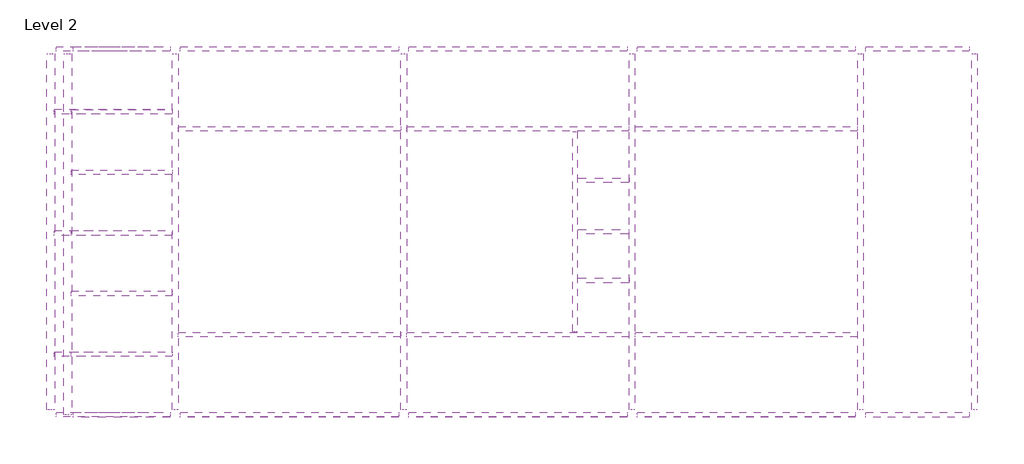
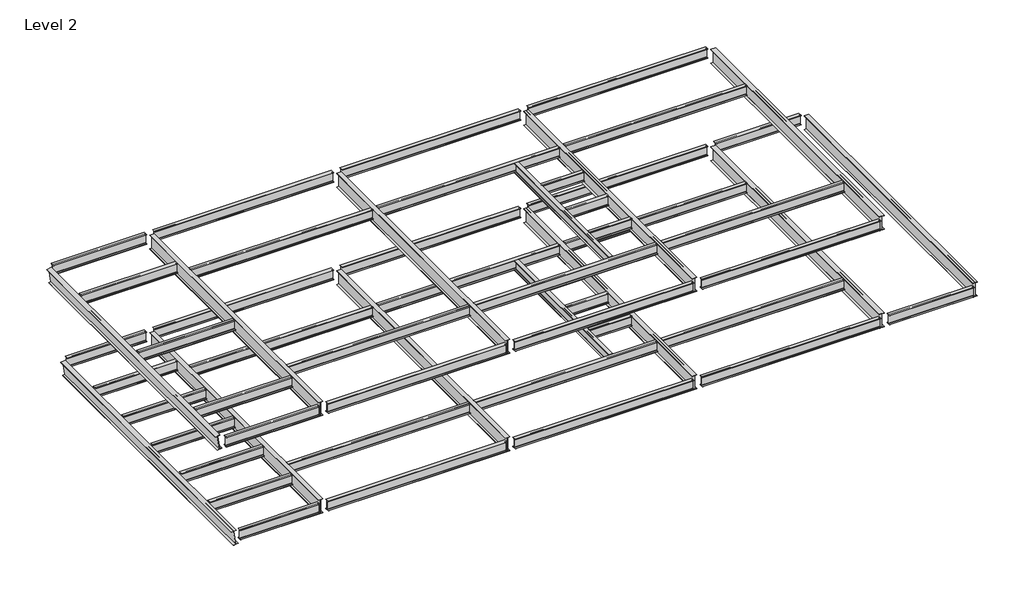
# One storey: 57 beams.
"""IFC4 building model written with IfcOpenShell, lengths in millimetres."""

import ifcopenshell
import ifcopenshell.guid

model = None  # the IFC model being written
_history = None  # IfcOwnerHistory: only IFC2X3 demands one
_inside = {}  # id of a spatial element -> (the spatial element, [elements in it])
_under = {}  # id of a project, library or spatial element -> (it, [spatial elements below it])
_declared = {}  # id of a project -> (the project, [libraries it declares])
_typed = {}  # id of a type object -> (the type object, [elements of that type])
_made_of = {}  # id of a material, layer set ... -> (it, [elements and type objects made of it])


def new_model(schema):
    """Start an empty IFC model of exactly this schema.

    Asked for "IFC4X3", IfcOpenShell would pick the latest addendum, in which some entities
    have other attributes; the version numbers below select the first issue.
    IFC2X3 requires an IfcOwnerHistory on every rooted entity: one is made here for all.
    """
    global model, _history
    if schema == "IFC4X3":
        model = ifcopenshell.file(schema_version=(4, 3, 0, 0))
    else:
        model = ifcopenshell.file(schema=schema)
    _inside.clear()
    _under.clear()
    _declared.clear()
    _typed.clear()
    _made_of.clear()
    _history = None
    if model.schema == "IFC2X3":
        org = make("IfcOrganization", Name="unknown")
        user = make(
            "IfcPersonAndOrganization",
            ThePerson=make("IfcPerson", FamilyName="unknown"),
            TheOrganization=org,
        )
        app = make(
            "IfcApplication",
            ApplicationDeveloper=org,
            Version="unknown",
            ApplicationFullName="unknown",
            ApplicationIdentifier="unknown",
        )
        _history = make(
            "IfcOwnerHistory",
            OwningUser=user,
            OwningApplication=app,
            ChangeAction="ADDED",
            CreationDate=0,
        )
    return model


def make(cls, **values):
    """One entity of the class cls with the attributes given. An attribute that is None is left unset."""
    return model.create_entity(
        cls, **{name: value for name, value in values.items() if value is not None}
    )


def rooted(cls, **values):
    """An entity with a GlobalId (a new one), such as an element, a storey or a relation."""
    return make(cls, GlobalId=ifcopenshell.guid.new(), OwnerHistory=_history, **values)


def si_unit(unit_type, name, prefix=None):
    """IfcSIUnit, for example si_unit("LENGTHUNIT", "METRE", prefix="MILLI")."""
    return make("IfcSIUnit", UnitType=unit_type, Prefix=prefix, Name=name)


def assignment(units):
    """IfcUnitAssignment: the units of a project."""
    return None if units is None else make("IfcUnitAssignment", Units=units)


def point(xyz):
    """IfcCartesianPoint."""
    return None if xyz is None else make("IfcCartesianPoint", Coordinates=xyz)


def direction(xyz):
    """IfcDirection."""
    return None if xyz is None else make("IfcDirection", DirectionRatios=xyz)


def frame(location, z_axis=None, x_axis=None):
    """IfcAxis2Placement3D, a coordinate frame: its origin and axes. An axis left out is left unset."""
    return make(
        "IfcAxis2Placement3D",
        Location=point(location),
        Axis=direction(z_axis),
        RefDirection=direction(x_axis),
    )


def frame_2d(location, x_axis=None):
    """IfcAxis2Placement2D, a coordinate frame in the plane: its origin and x axis."""
    return make(
        "IfcAxis2Placement2D", Location=point(location), RefDirection=direction(x_axis)
    )


def origin():
    """The frame at (0, 0, 0) with its axes left unset."""
    return frame((0.0, 0.0, 0.0))


def place(relative_to, where):
    """IfcLocalPlacement: puts the frame where relative to a parent placement (None: the world)."""
    return make(
        "IfcLocalPlacement", PlacementRelTo=relative_to, RelativePlacement=where
    )


def context(
    kind, dimensions, precision=None, world=None, true_north=None, identifier=None
):
    """IfcGeometricRepresentationContext, for example the 3D "Model" context."""
    return make(
        "IfcGeometricRepresentationContext",
        ContextIdentifier=identifier,
        ContextType=kind,
        CoordinateSpaceDimension=dimensions,
        Precision=precision,
        WorldCoordinateSystem=world,
        TrueNorth=true_north,
    )


def project(units=None, contexts=None):
    """IfcProject with its units and contexts."""
    return rooted(
        "IfcProject",
        Name="project",
        RepresentationContexts=contexts,
        UnitsInContext=assignment(units),
    )


def spatial(cls, under=None, at=None, **own):
    """A site, building, storey or space (cls), placed at a placement, below another one or the project."""
    s = rooted(cls, ObjectPlacement=at, **own)
    if under is not None:
        _under.setdefault(under.id(), (under, []))[1].append(s)
    return s


def polyline(points):
    """IfcPolyline through the points."""
    return make("IfcPolyline", Points=[point(p) for p in points])


def circle_curve(where, radius):
    """IfcCircle in the frame where."""
    return make("IfcCircle", Position=where, Radius=radius)


def trimmed(basis, trim1, trim2, sense, master):
    """IfcTrimmedCurve: the piece of a basis curve between two trims."""
    return make(
        "IfcTrimmedCurve",
        BasisCurve=basis,
        Trim1=trim1,
        Trim2=trim2,
        SenseAgreement=sense,
        MasterRepresentation=master,
    )


def segment(curve, same_sense, transition):
    """IfcCompositeCurveSegment."""
    return make(
        "IfcCompositeCurveSegment",
        Transition=transition,
        SameSense=same_sense,
        ParentCurve=curve,
    )


def composite_curve(segments, self_intersect=None):
    """IfcCompositeCurve: segments joined end to end."""
    return make("IfcCompositeCurve", Segments=segments, SelfIntersect=self_intersect)


def outline(outer, holes=None, kind="AREA"):
    """IfcArbitraryClosedProfileDef: a profile drawn as a closed curve; with holes, ...WithVoids."""
    if holes is None:
        return make("IfcArbitraryClosedProfileDef", ProfileType=kind, OuterCurve=outer)
    return make(
        "IfcArbitraryProfileDefWithVoids",
        ProfileType=kind,
        OuterCurve=outer,
        InnerCurves=holes,
    )


def extrude(swept, where, along, depth):
    """IfcExtrudedAreaSolid: the profile swept, set in the frame where, extruded along a direction by depth."""
    return make(
        "IfcExtrudedAreaSolid",
        SweptArea=swept,
        Position=where,
        ExtrudedDirection=direction(along),
        Depth=depth,
    )


def shape(context_of_items, identifier, shape_type, items):
    """IfcShapeRepresentation: the items that make up one representation, for example the "Body"."""
    return make(
        "IfcShapeRepresentation",
        ContextOfItems=context_of_items,
        RepresentationIdentifier=identifier,
        RepresentationType=shape_type,
        Items=items,
    )


def source(mapping_origin, context_of_items, identifier, shape_type, items):
    """IfcRepresentationMap: a shape defined once, which mapped items show again and again."""
    return make(
        "IfcRepresentationMap",
        MappingOrigin=mapping_origin,
        MappedRepresentation=shape(context_of_items, identifier, shape_type, items),
    )


def transform(
    local_origin,
    x_axis=None,
    y_axis=None,
    z_axis=None,
    scale=None,
    scale2=None,
    scale3=None,
    uniform=True,
):
    """IfcCartesianTransformationOperator3D, or its non-uniform kind. x_axis, y_axis, z_axis: its Axis1, 2, 3."""
    if uniform:
        return make(
            "IfcCartesianTransformationOperator3D",
            Axis1=direction(x_axis),
            Axis2=direction(y_axis),
            LocalOrigin=point(local_origin),
            Scale=scale,
            Axis3=direction(z_axis),
        )
    return make(
        "IfcCartesianTransformationOperator3DnonUniform",
        Axis1=direction(x_axis),
        Axis2=direction(y_axis),
        LocalOrigin=point(local_origin),
        Scale=scale,
        Axis3=direction(z_axis),
        Scale2=scale2,
        Scale3=scale3,
    )


def mapped(mapping_source, mapping_target):
    """IfcMappedItem: shows the shape of a source again, moved by a transform."""
    return make(
        "IfcMappedItem", MappingSource=mapping_source, MappingTarget=mapping_target
    )


def made_of(thing, what):
    """Note that an element or type object is made of a material, layer set ...; save() writes the relation."""
    if what is not None:
        _made_of.setdefault(what.id(), (what, []))[1].append(thing)
    return thing


def element(
    cls,
    number,
    at=None,
    inside=None,
    cuts=None,
    type_object=None,
    material=None,
    context=None,
    identifier="Body",
    shape_type=None,
    held_by="IfcProductDefinitionShape",
    body=None,
    shapes=None,
    **own,
):
    """One element of the class cls, such as IfcWall. Its Tag is "e" and its number.

    at: its placement. inside: the storey or other place that contains it. cuts: it is an
    opening in that element (IfcRelVoidsElement). A single representation is given by context,
    identifier, shape_type and body (its items); several are given by shapes. held_by: the class
    of the entity that holds the representations. save() writes the other relations.
    """
    e = rooted(cls, Tag="e%d" % number, ObjectPlacement=at, **own)
    if body is not None:
        shapes = [shape(context, identifier, shape_type, body)]
    if shapes is not None:
        e.Representation = make(held_by, Representations=shapes)
    if inside is not None:
        _inside.setdefault(inside.id(), (inside, []))[1].append(e)
    if cuts is not None:
        rooted(
            "IfcRelVoidsElement", RelatingBuildingElement=cuts, RelatedOpeningElement=e
        )
    if type_object is not None:
        _typed.setdefault(type_object.id(), (type_object, []))[1].append(e)
    return made_of(e, material)


def aggregate(whole, parts):
    """IfcRelAggregates: a whole, such as a stair, and the parts it consists of."""
    return rooted("IfcRelAggregates", RelatingObject=whole, RelatedObjects=parts)


def save(model, path):
    """Write the relations noted so far, then the file.

    IfcRelAggregates (storeys below a building ...), IfcRelContainedInSpatialStructure (elements
    in a storey), IfcRelDefinesByType, IfcRelAssociatesMaterial and IfcRelDeclares: one each for
    every whole, place, type object, material and project.
    """
    for whole, parts in _under.values():
        aggregate(whole, parts)
    for where, things in _inside.values():
        rooted(
            "IfcRelContainedInSpatialStructure",
            RelatedElements=things,
            RelatingStructure=where,
        )
    for kind, things in _typed.values():
        rooted("IfcRelDefinesByType", RelatedObjects=things, RelatingType=kind)
    for what, things in _made_of.values():
        rooted("IfcRelAssociatesMaterial", RelatedObjects=things, RelatingMaterial=what)
    for by, libraries in _declared.values():
        rooted("IfcRelDeclares", RelatingContext=by, RelatedDefinitions=libraries)
    model.write(path)


def ub_universal_beams_as_3679_1_530ub92_4_72efcd79(model_context):
    return source(origin(), model_context, "Body", "SweptSolid", [
        extrude(outline(composite_curve([segment(polyline([(104.5, -250.9), (104.5, -266.5), (-104.5, -266.5), (-104.5, -250.9), (-19.1, -250.9)]), True, "CONTINUOUS"), segment(trimmed(circle_curve(frame_2d((-19.1, -236.9)), 14.0), [point((-19.1, -250.9))], [point((-5.1, -236.9))], True, "CARTESIAN"), True, "CONTINUOUS"), segment(polyline([(-5.1, -236.9), (-5.1, 236.9)]), True, "CONTINUOUS"), segment(trimmed(circle_curve(frame_2d((-19.1, 236.9)), 14.0), [point((-5.1, 236.9))], [point((-19.1, 250.9))], True, "CARTESIAN"), True, "CONTINUOUS"), segment(polyline([(-19.1, 250.9), (-104.5, 250.9), (-104.5, 266.5), (104.5, 266.5), (104.5, 250.9), (19.1, 250.9)]), True, "CONTINUOUS"), segment(trimmed(circle_curve(frame_2d((19.1, 236.9)), 14.0), [point((19.1, 250.9))], [point((5.1, 236.9))], True, "CARTESIAN"), True, "CONTINUOUS"), segment(polyline([(5.1, 236.9), (5.1, -236.9)]), True, "CONTINUOUS"), segment(trimmed(circle_curve(frame_2d((19.1, -236.9)), 14.0), [point((5.1, -236.9))], [point((19.1, -250.9))], True, "CARTESIAN"), True, "CONTINUOUS"), segment(polyline([(19.1, -250.9), (104.5, -250.9)]), True, "CONTINUOUS")], self_intersect=False)), frame((-2098.6, 0.0, 0.0), z_axis=(1.0, 0.0, 0.0), x_axis=(0.0, 1.0, 0.0)), (0.0, 0.0, 1.0), 4411.1),
    ])


def ub_universal_beams_as_3679_1_530ub92_4_55a1222a(model_context):
    return source(origin(), model_context, "Body", "SweptSolid", [
        extrude(outline(composite_curve([segment(polyline([(104.5, -250.9), (104.5, -266.5), (-104.5, -266.5), (-104.5, -250.9), (-19.1, -250.9)]), True, "CONTINUOUS"), segment(trimmed(circle_curve(frame_2d((-19.1, -236.9)), 14.0), [point((-19.1, -250.9))], [point((-5.1, -236.9))], True, "CARTESIAN"), True, "CONTINUOUS"), segment(polyline([(-5.1, -236.9), (-5.1, 236.9)]), True, "CONTINUOUS"), segment(trimmed(circle_curve(frame_2d((-19.1, 236.9)), 14.0), [point((-5.1, 236.9))], [point((-19.1, 250.9))], True, "CARTESIAN"), True, "CONTINUOUS"), segment(polyline([(-19.1, 250.9), (-104.5, 250.9), (-104.5, 266.5), (104.5, 266.5), (104.5, 250.9), (19.1, 250.9)]), True, "CONTINUOUS"), segment(trimmed(circle_curve(frame_2d((19.1, 236.9)), 14.0), [point((19.1, 250.9))], [point((5.1, 236.9))], True, "CARTESIAN"), True, "CONTINUOUS"), segment(polyline([(5.1, 236.9), (5.1, -236.9)]), True, "CONTINUOUS"), segment(trimmed(circle_curve(frame_2d((19.1, -236.9)), 14.0), [point((5.1, -236.9))], [point((19.1, -250.9))], True, "CARTESIAN"), True, "CONTINUOUS"), segment(polyline([(19.1, -250.9), (104.5, -250.9)]), True, "CONTINUOUS")], self_intersect=False)), frame((-2098.6, 0.0, 0.0), z_axis=(1.0, 0.0, 0.0), x_axis=(0.0, 1.0, 0.0)), (0.0, 0.0, 1.0), 4398.3),
    ])


def ub_universal_beams_as_3679_1_530ub92_4_2ab20e32(model_context):
    return source(origin(), model_context, "Body", "SweptSolid", [
        extrude(outline(composite_curve([segment(polyline([(104.5, -250.9), (104.5, -266.5), (-104.5, -266.5), (-104.5, -250.9), (-19.1, -250.9)]), True, "CONTINUOUS"), segment(trimmed(circle_curve(frame_2d((-19.1, -236.9)), 14.0), [point((-19.1, -250.9))], [point((-5.1, -236.9))], True, "CARTESIAN"), True, "CONTINUOUS"), segment(polyline([(-5.1, -236.9), (-5.1, 236.9)]), True, "CONTINUOUS"), segment(trimmed(circle_curve(frame_2d((-19.1, 236.9)), 14.0), [point((-5.1, 236.9))], [point((-19.1, 250.9))], True, "CARTESIAN"), True, "CONTINUOUS"), segment(polyline([(-19.1, 250.9), (-104.5, 250.9), (-104.5, 266.5), (104.5, 266.5), (104.5, 250.9), (19.1, 250.9)]), True, "CONTINUOUS"), segment(trimmed(circle_curve(frame_2d((19.1, 236.9)), 14.0), [point((19.1, 250.9))], [point((5.1, 236.9))], True, "CARTESIAN"), True, "CONTINUOUS"), segment(polyline([(5.1, 236.9), (5.1, -236.9)]), True, "CONTINUOUS"), segment(trimmed(circle_curve(frame_2d((19.1, -236.9)), 14.0), [point((5.1, -236.9))], [point((19.1, -250.9))], True, "CARTESIAN"), True, "CONTINUOUS"), segment(polyline([(19.1, -250.9), (104.5, -250.9)]), True, "CONTINUOUS")], self_intersect=False)), frame((-2473.6, 0.0, 0.0), z_axis=(1.0, 0.0, 0.0), x_axis=(0.0, 1.0, 0.0)), (0.0, 0.0, 1.0), 5161.1),
    ])


def ub_universal_beams_as_3679_1_530ub92_4_ca06928b(model_context):
    return source(origin(), model_context, "Body", "SweptSolid", [
        extrude(outline(composite_curve([segment(polyline([(104.5, -250.9), (104.5, -266.5), (-104.5, -266.5), (-104.5, -250.9), (-19.1, -250.9)]), True, "CONTINUOUS"), segment(trimmed(circle_curve(frame_2d((-19.1, -236.9)), 14.0), [point((-19.1, -250.9))], [point((-5.1, -236.9))], True, "CARTESIAN"), True, "CONTINUOUS"), segment(polyline([(-5.1, -236.9), (-5.1, 236.9)]), True, "CONTINUOUS"), segment(trimmed(circle_curve(frame_2d((-19.1, 236.9)), 14.0), [point((-5.1, 236.9))], [point((-19.1, 250.9))], True, "CARTESIAN"), True, "CONTINUOUS"), segment(polyline([(-19.1, 250.9), (-104.5, 250.9), (-104.5, 266.5), (104.5, 266.5), (104.5, 250.9), (19.1, 250.9)]), True, "CONTINUOUS"), segment(trimmed(circle_curve(frame_2d((19.1, 236.9)), 14.0), [point((19.1, 250.9))], [point((5.1, 236.9))], True, "CARTESIAN"), True, "CONTINUOUS"), segment(polyline([(5.1, 236.9), (5.1, -236.9)]), True, "CONTINUOUS"), segment(trimmed(circle_curve(frame_2d((19.1, -236.9)), 14.0), [point((5.1, -236.9))], [point((19.1, -250.9))], True, "CARTESIAN"), True, "CONTINUOUS"), segment(polyline([(19.1, -250.9), (104.5, -250.9)]), True, "CONTINUOUS")], self_intersect=False)), frame((-2473.6, 0.0, 0.0), z_axis=(1.0, 0.0, 0.0), x_axis=(0.0, 1.0, 0.0)), (0.0, 0.0, 1.0), 5148.3),
    ])


def ub_universal_beams_as_3679_1_530ub92_4_c07f3189(model_context):
    return source(origin(), model_context, "Body", "SweptSolid", [
        extrude(outline(composite_curve([segment(polyline([(104.5, -250.9), (104.5, -266.5), (-104.5, -266.5), (-104.5, -250.9), (-19.1, -250.9)]), True, "CONTINUOUS"), segment(trimmed(circle_curve(frame_2d((-19.1, -236.9)), 14.0), [point((-19.1, -250.9))], [point((-5.1, -236.9))], True, "CARTESIAN"), True, "CONTINUOUS"), segment(polyline([(-5.1, -236.9), (-5.1, 236.9)]), True, "CONTINUOUS"), segment(trimmed(circle_curve(frame_2d((-19.1, 236.9)), 14.0), [point((-5.1, 236.9))], [point((-19.1, 250.9))], True, "CARTESIAN"), True, "CONTINUOUS"), segment(polyline([(-19.1, 250.9), (-104.5, 250.9), (-104.5, 266.5), (104.5, 266.5), (104.5, 250.9), (19.1, 250.9)]), True, "CONTINUOUS"), segment(trimmed(circle_curve(frame_2d((19.1, 236.9)), 14.0), [point((19.1, 250.9))], [point((5.1, 236.9))], True, "CARTESIAN"), True, "CONTINUOUS"), segment(polyline([(5.1, 236.9), (5.1, -236.9)]), True, "CONTINUOUS"), segment(trimmed(circle_curve(frame_2d((19.1, -236.9)), 14.0), [point((5.1, -236.9))], [point((19.1, -250.9))], True, "CARTESIAN"), True, "CONTINUOUS"), segment(polyline([(19.1, -250.9), (104.5, -250.9)]), True, "CONTINUOUS")], self_intersect=False)), frame((-4790.9, 0.0, 0.0), z_axis=(1.0, 0.0, 0.0), x_axis=(0.0, 1.0, 0.0)), (0.0, 0.0, 1.0), 9719.5),
    ])


def ub_universal_beams_as_3679_1_530ub92_4_f17eb3f2(model_context):
    return source(origin(), model_context, "Body", "SweptSolid", [
        extrude(outline(composite_curve([segment(polyline([(104.5, -250.9), (104.5, -266.5), (-104.5, -266.5), (-104.5, -250.9), (-19.1, -250.9)]), True, "CONTINUOUS"), segment(trimmed(circle_curve(frame_2d((-19.1, -236.9)), 14.0), [point((-19.1, -250.9))], [point((-5.1, -236.9))], True, "CARTESIAN"), True, "CONTINUOUS"), segment(polyline([(-5.1, -236.9), (-5.1, 236.9)]), True, "CONTINUOUS"), segment(trimmed(circle_curve(frame_2d((-19.1, 236.9)), 14.0), [point((-5.1, 236.9))], [point((-19.1, 250.9))], True, "CARTESIAN"), True, "CONTINUOUS"), segment(polyline([(-19.1, 250.9), (-104.5, 250.9), (-104.5, 266.5), (104.5, 266.5), (104.5, 250.9), (19.1, 250.9)]), True, "CONTINUOUS"), segment(trimmed(circle_curve(frame_2d((19.1, 236.9)), 14.0), [point((19.1, 250.9))], [point((5.1, 236.9))], True, "CARTESIAN"), True, "CONTINUOUS"), segment(polyline([(5.1, 236.9), (5.1, -236.9)]), True, "CONTINUOUS"), segment(trimmed(circle_curve(frame_2d((19.1, -236.9)), 14.0), [point((5.1, -236.9))], [point((19.1, -250.9))], True, "CARTESIAN"), True, "CONTINUOUS"), segment(polyline([(19.1, -250.9), (104.5, -250.9)]), True, "CONTINUOUS")], self_intersect=False)), frame((-1070.3, 0.0, 0.0), z_axis=(1.0, 0.0, 0.0), x_axis=(0.0, 1.0, 0.0)), (0.0, 0.0, 1.0), 2257.8),
    ])


def ub_universal_beams_as_3679_1_530ub92_4_80d32716(model_context):
    return source(origin(), model_context, "Body", "SweptSolid", [
        extrude(outline(composite_curve([segment(polyline([(104.5, -250.9), (104.5, -266.5), (-104.5, -266.5), (-104.5, -250.9), (-19.1, -250.9)]), True, "CONTINUOUS"), segment(trimmed(circle_curve(frame_2d((-19.1, -236.9)), 14.0), [point((-19.1, -250.9))], [point((-5.1, -236.9))], True, "CARTESIAN"), True, "CONTINUOUS"), segment(polyline([(-5.1, -236.9), (-5.1, 236.9)]), True, "CONTINUOUS"), segment(trimmed(circle_curve(frame_2d((-19.1, 236.9)), 14.0), [point((-5.1, 236.9))], [point((-19.1, 250.9))], True, "CARTESIAN"), True, "CONTINUOUS"), segment(polyline([(-19.1, 250.9), (-104.5, 250.9), (-104.5, 266.5), (104.5, 266.5), (104.5, 250.9), (19.1, 250.9)]), True, "CONTINUOUS"), segment(trimmed(circle_curve(frame_2d((19.1, 236.9)), 14.0), [point((19.1, 250.9))], [point((5.1, 236.9))], True, "CARTESIAN"), True, "CONTINUOUS"), segment(polyline([(5.1, 236.9), (5.1, -236.9)]), True, "CONTINUOUS"), segment(trimmed(circle_curve(frame_2d((19.1, -236.9)), 14.0), [point((5.1, -236.9))], [point((19.1, -250.9))], True, "CARTESIAN"), True, "CONTINUOUS"), segment(polyline([(19.1, -250.9), (104.5, -250.9)]), True, "CONTINUOUS")], self_intersect=False)), frame((-4853.4, 0.0, 0.0), z_axis=(1.0, 0.0, 0.0), x_axis=(0.0, 1.0, 0.0)), (0.0, 0.0, 1.0), 9706.8),
    ])


def ub_universal_beams_as_3679_1_530ub92_4_7000386a(model_context):
    return source(origin(), model_context, "Body", "SweptSolid", [
        extrude(outline(composite_curve([segment(polyline([(104.5, -250.9), (104.5, -266.5), (-104.5, -266.5), (-104.5, -250.9), (-19.1, -250.9)]), True, "CONTINUOUS"), segment(trimmed(circle_curve(frame_2d((-19.1, -236.9)), 14.0), [point((-19.1, -250.9))], [point((-5.1, -236.9))], True, "CARTESIAN"), True, "CONTINUOUS"), segment(polyline([(-5.1, -236.9), (-5.1, 236.9)]), True, "CONTINUOUS"), segment(trimmed(circle_curve(frame_2d((-19.1, 236.9)), 14.0), [point((-5.1, 236.9))], [point((-19.1, 250.9))], True, "CARTESIAN"), True, "CONTINUOUS"), segment(polyline([(-19.1, 250.9), (-104.5, 250.9), (-104.5, 266.5), (104.5, 266.5), (104.5, 250.9), (19.1, 250.9)]), True, "CONTINUOUS"), segment(trimmed(circle_curve(frame_2d((19.1, 236.9)), 14.0), [point((19.1, 250.9))], [point((5.1, 236.9))], True, "CARTESIAN"), True, "CONTINUOUS"), segment(polyline([(5.1, 236.9), (5.1, -236.9)]), True, "CONTINUOUS"), segment(trimmed(circle_curve(frame_2d((19.1, -236.9)), 14.0), [point((5.1, -236.9))], [point((19.1, -250.9))], True, "CARTESIAN"), True, "CONTINUOUS"), segment(polyline([(19.1, -250.9), (104.5, -250.9)]), True, "CONTINUOUS")], self_intersect=False)), frame((-1132.8, 0.0, 0.0), z_axis=(1.0, 0.0, 0.0), x_axis=(0.0, 1.0, 0.0)), (0.0, 0.0, 1.0), 2245.1),
    ])


def ub_universal_beams_as_3679_1_530ub92_4_e2c91430(model_context):
    return source(origin(), model_context, "Body", "SweptSolid", [
        extrude(outline(composite_curve([segment(polyline([(104.5, -250.9), (104.5, -266.5), (-104.5, -266.5), (-104.5, -250.9), (-19.1, -250.9)]), True, "CONTINUOUS"), segment(trimmed(circle_curve(frame_2d((-19.1, -236.9)), 14.0), [point((-19.1, -250.9))], [point((-5.1, -236.9))], True, "CARTESIAN"), True, "CONTINUOUS"), segment(polyline([(-5.1, -236.9), (-5.1, 236.9)]), True, "CONTINUOUS"), segment(trimmed(circle_curve(frame_2d((-19.1, 236.9)), 14.0), [point((-5.1, 236.9))], [point((-19.1, 250.9))], True, "CARTESIAN"), True, "CONTINUOUS"), segment(polyline([(-19.1, 250.9), (-104.5, 250.9), (-104.5, 266.5), (104.5, 266.5), (104.5, 250.9), (19.1, 250.9)]), True, "CONTINUOUS"), segment(trimmed(circle_curve(frame_2d((19.1, 236.9)), 14.0), [point((19.1, 250.9))], [point((5.1, 236.9))], True, "CARTESIAN"), True, "CONTINUOUS"), segment(polyline([(5.1, 236.9), (5.1, -236.9)]), True, "CONTINUOUS"), segment(trimmed(circle_curve(frame_2d((19.1, -236.9)), 14.0), [point((5.1, -236.9))], [point((19.1, -250.9))], True, "CARTESIAN"), True, "CONTINUOUS"), segment(polyline([(19.1, -250.9), (104.5, -250.9)]), True, "CONTINUOUS")], self_intersect=False)), frame((-4320.3, 0.0, 0.0), z_axis=(1.0, 0.0, 0.0), x_axis=(0.0, 1.0, 0.0)), (0.0, 0.0, 1.0), 8757.8),
    ])


def ub_universal_beams_as_3679_1_530ub92_4_fdd6a9f2(model_context):
    return source(origin(), model_context, "Body", "SweptSolid", [
        extrude(outline(composite_curve([segment(polyline([(104.5, -250.9), (104.5, -266.5), (-104.5, -266.5), (-104.5, -250.9), (-19.1, -250.9)]), True, "CONTINUOUS"), segment(trimmed(circle_curve(frame_2d((-19.1, -236.9)), 14.0), [point((-19.1, -250.9))], [point((-5.1, -236.9))], True, "CARTESIAN"), True, "CONTINUOUS"), segment(polyline([(-5.1, -236.9), (-5.1, 236.9)]), True, "CONTINUOUS"), segment(trimmed(circle_curve(frame_2d((-19.1, 236.9)), 14.0), [point((-5.1, 236.9))], [point((-19.1, 250.9))], True, "CARTESIAN"), True, "CONTINUOUS"), segment(polyline([(-19.1, 250.9), (-104.5, 250.9), (-104.5, 266.5), (104.5, 266.5), (104.5, 250.9), (19.1, 250.9)]), True, "CONTINUOUS"), segment(trimmed(circle_curve(frame_2d((19.1, 236.9)), 14.0), [point((19.1, 250.9))], [point((5.1, 236.9))], True, "CARTESIAN"), True, "CONTINUOUS"), segment(polyline([(5.1, 236.9), (5.1, -236.9)]), True, "CONTINUOUS"), segment(trimmed(circle_curve(frame_2d((19.1, -236.9)), 14.0), [point((5.1, -236.9))], [point((19.1, -250.9))], True, "CARTESIAN"), True, "CONTINUOUS"), segment(polyline([(19.1, -250.9), (104.5, -250.9)]), True, "CONTINUOUS")], self_intersect=False)), frame((-2267.3, 0.0, 0.0), z_axis=(1.0, 0.0, 0.0), x_axis=(0.0, 1.0, 0.0)), (0.0, 0.0, 1.0), 4534.6),
    ])


def ub_universal_beams_as_3679_1_530ub92_4_39bd4a42(model_context):
    return source(origin(), model_context, "Body", "SweptSolid", [
        extrude(outline(composite_curve([segment(polyline([(104.5, -250.9), (104.5, -266.5), (-104.5, -266.5), (-104.5, -250.9), (-19.1, -250.9)]), True, "CONTINUOUS"), segment(trimmed(circle_curve(frame_2d((-19.1, -236.9)), 14.0), [point((-19.1, -250.9))], [point((-5.1, -236.9))], True, "CARTESIAN"), True, "CONTINUOUS"), segment(polyline([(-5.1, -236.9), (-5.1, 236.9)]), True, "CONTINUOUS"), segment(trimmed(circle_curve(frame_2d((-19.1, 236.9)), 14.0), [point((-5.1, 236.9))], [point((-19.1, 250.9))], True, "CARTESIAN"), True, "CONTINUOUS"), segment(polyline([(-19.1, 250.9), (-104.5, 250.9), (-104.5, 266.5), (104.5, 266.5), (104.5, 250.9), (19.1, 250.9)]), True, "CONTINUOUS"), segment(trimmed(circle_curve(frame_2d((19.1, 236.9)), 14.0), [point((19.1, 250.9))], [point((5.1, 236.9))], True, "CARTESIAN"), True, "CONTINUOUS"), segment(polyline([(5.1, 236.9), (5.1, -236.9)]), True, "CONTINUOUS"), segment(trimmed(circle_curve(frame_2d((19.1, -236.9)), 14.0), [point((5.1, -236.9))], [point((19.1, -250.9))], True, "CARTESIAN"), True, "CONTINUOUS"), segment(polyline([(19.1, -250.9), (104.5, -250.9)]), True, "CONTINUOUS")], self_intersect=False)), frame((-4767.3, 0.0, 0.0), z_axis=(1.0, 0.0, 0.0), x_axis=(0.0, 1.0, 0.0)), (0.0, 0.0, 1.0), 9534.6),
    ])


def ub_universal_beams_as_3679_1_530ub92_4_d895efd6(model_context):
    return source(origin(), model_context, "Body", "SweptSolid", [
        extrude(outline(composite_curve([segment(polyline([(104.5, -250.9), (104.5, -266.5), (-104.5, -266.5), (-104.5, -250.9), (-19.1, -250.9)]), True, "CONTINUOUS"), segment(trimmed(circle_curve(frame_2d((-19.1, -236.9)), 14.0), [point((-19.1, -250.9))], [point((-5.1, -236.9))], True, "CARTESIAN"), True, "CONTINUOUS"), segment(polyline([(-5.1, -236.9), (-5.1, 236.9)]), True, "CONTINUOUS"), segment(trimmed(circle_curve(frame_2d((-19.1, 236.9)), 14.0), [point((-5.1, 236.9))], [point((-19.1, 250.9))], True, "CARTESIAN"), True, "CONTINUOUS"), segment(polyline([(-19.1, 250.9), (-104.5, 250.9), (-104.5, 266.5), (104.5, 266.5), (104.5, 250.9), (19.1, 250.9)]), True, "CONTINUOUS"), segment(trimmed(circle_curve(frame_2d((19.1, 236.9)), 14.0), [point((19.1, 250.9))], [point((5.1, 236.9))], True, "CARTESIAN"), True, "CONTINUOUS"), segment(polyline([(5.1, 236.9), (5.1, -236.9)]), True, "CONTINUOUS"), segment(trimmed(circle_curve(frame_2d((19.1, -236.9)), 14.0), [point((5.1, -236.9))], [point((19.1, -250.9))], True, "CARTESIAN"), True, "CONTINUOUS"), segment(polyline([(19.1, -250.9), (104.5, -250.9)]), True, "CONTINUOUS")], self_intersect=False)), frame((-2151.2, 0.0, 0.0), z_axis=(1.0, 0.0, 0.0), x_axis=(0.0, 1.0, 0.0)), (0.0, 0.0, 1.0), 4227.8),
    ])


def ub_universal_beams_as_3679_1_530ub92_4_2c95696b(model_context):
    return source(origin(), model_context, "Body", "SweptSolid", [
        extrude(outline(composite_curve([segment(polyline([(104.5, -250.9), (104.5, -266.5), (-104.5, -266.5), (-104.5, -250.9), (-19.1, -250.9)]), True, "CONTINUOUS"), segment(trimmed(circle_curve(frame_2d((-19.1, -236.9)), 14.0), [point((-19.1, -250.9))], [point((-5.1, -236.9))], True, "CARTESIAN"), True, "CONTINUOUS"), segment(polyline([(-5.1, -236.9), (-5.1, 236.9)]), True, "CONTINUOUS"), segment(trimmed(circle_curve(frame_2d((-19.1, 236.9)), 14.0), [point((-5.1, 236.9))], [point((-19.1, 250.9))], True, "CARTESIAN"), True, "CONTINUOUS"), segment(polyline([(-19.1, 250.9), (-104.5, 250.9), (-104.5, 266.5), (104.5, 266.5), (104.5, 250.9), (19.1, 250.9)]), True, "CONTINUOUS"), segment(trimmed(circle_curve(frame_2d((19.1, 236.9)), 14.0), [point((19.1, 250.9))], [point((5.1, 236.9))], True, "CARTESIAN"), True, "CONTINUOUS"), segment(polyline([(5.1, 236.9), (5.1, -236.9)]), True, "CONTINUOUS"), segment(trimmed(circle_curve(frame_2d((19.1, -236.9)), 14.0), [point((5.1, -236.9))], [point((19.1, -250.9))], True, "CARTESIAN"), True, "CONTINUOUS"), segment(polyline([(19.1, -250.9), (104.5, -250.9)]), True, "CONTINUOUS")], self_intersect=False)), frame((-2076.6, 0.0, 0.0), z_axis=(1.0, 0.0, 0.0), x_axis=(0.0, 1.0, 0.0)), (0.0, 0.0, 1.0), 4227.8),
    ])


def ub_universal_beams_as_3679_1_530ub92_4_92d74ed5(model_context):
    return source(origin(), model_context, "Body", "SweptSolid", [
        extrude(outline(composite_curve([segment(polyline([(104.5, -250.9), (104.5, -266.5), (-104.5, -266.5), (-104.5, -250.9), (-19.1, -250.9)]), True, "CONTINUOUS"), segment(trimmed(circle_curve(frame_2d((-19.1, -236.9)), 14.0), [point((-19.1, -250.9))], [point((-5.1, -236.9))], True, "CARTESIAN"), True, "CONTINUOUS"), segment(polyline([(-5.1, -236.9), (-5.1, 236.9)]), True, "CONTINUOUS"), segment(trimmed(circle_curve(frame_2d((-19.1, 236.9)), 14.0), [point((-5.1, 236.9))], [point((-19.1, 250.9))], True, "CARTESIAN"), True, "CONTINUOUS"), segment(polyline([(-19.1, 250.9), (-104.5, 250.9), (-104.5, 266.5), (104.5, 266.5), (104.5, 250.9), (19.1, 250.9)]), True, "CONTINUOUS"), segment(trimmed(circle_curve(frame_2d((19.1, 236.9)), 14.0), [point((19.1, 250.9))], [point((5.1, 236.9))], True, "CARTESIAN"), True, "CONTINUOUS"), segment(polyline([(5.1, 236.9), (5.1, -236.9)]), True, "CONTINUOUS"), segment(trimmed(circle_curve(frame_2d((19.1, -236.9)), 14.0), [point((5.1, -236.9))], [point((19.1, -250.9))], True, "CARTESIAN"), True, "CONTINUOUS"), segment(polyline([(19.1, -250.9), (104.5, -250.9)]), True, "CONTINUOUS")], self_intersect=False)), frame((-2526.2, 0.0, 0.0), z_axis=(1.0, 0.0, 0.0), x_axis=(0.0, 1.0, 0.0)), (0.0, 0.0, 1.0), 4977.8),
    ])


def ub_universal_beams_as_3679_1_530ub92_4_23cbc2f6(model_context):
    return source(origin(), model_context, "Body", "SweptSolid", [
        extrude(outline(composite_curve([segment(polyline([(104.5, -250.9), (104.5, -266.5), (-104.5, -266.5), (-104.5, -250.9), (-19.1, -250.9)]), True, "CONTINUOUS"), segment(trimmed(circle_curve(frame_2d((-19.1, -236.9)), 14.0), [point((-19.1, -250.9))], [point((-5.1, -236.9))], True, "CARTESIAN"), True, "CONTINUOUS"), segment(polyline([(-5.1, -236.9), (-5.1, 236.9)]), True, "CONTINUOUS"), segment(trimmed(circle_curve(frame_2d((-19.1, 236.9)), 14.0), [point((-5.1, 236.9))], [point((-19.1, 250.9))], True, "CARTESIAN"), True, "CONTINUOUS"), segment(polyline([(-19.1, 250.9), (-104.5, 250.9), (-104.5, 266.5), (104.5, 266.5), (104.5, 250.9), (19.1, 250.9)]), True, "CONTINUOUS"), segment(trimmed(circle_curve(frame_2d((19.1, 236.9)), 14.0), [point((19.1, 250.9))], [point((5.1, 236.9))], True, "CARTESIAN"), True, "CONTINUOUS"), segment(polyline([(5.1, 236.9), (5.1, -236.9)]), True, "CONTINUOUS"), segment(trimmed(circle_curve(frame_2d((19.1, -236.9)), 14.0), [point((5.1, -236.9))], [point((19.1, -250.9))], True, "CARTESIAN"), True, "CONTINUOUS"), segment(polyline([(19.1, -250.9), (104.5, -250.9)]), True, "CONTINUOUS")], self_intersect=False)), frame((-2451.6, 0.0, 0.0), z_axis=(1.0, 0.0, 0.0), x_axis=(0.0, 1.0, 0.0)), (0.0, 0.0, 1.0), 4977.8),
    ])


def wb_welded_beams_as_3679_2_800wb122_c41ef6cc(model_context):
    return source(origin(), model_context, "Body", "SweptSolid", [
        extrude(outline(polyline([(125.0, -380.0), (125.0, -396.0), (-125.0, -396.0), (-125.0, -380.0), (-5.0, -380.0), (-5.0, 380.0), (-125.0, 380.0), (-125.0, 396.0), (125.0, 396.0), (125.0, 380.0), (5.0, 380.0), (5.0, -380.0), (125.0, -380.0)])), frame((-7787.2, 0.0, 0.0), z_axis=(1.0, 0.0, 0.0), x_axis=(0.0, 1.0, 0.0)), (0.0, 0.0, 1.0), 15574.4),
    ])


def wb_welded_beams_as_3679_2_800wb122_3b9a96c3(model_context):
    return source(origin(), model_context, "Body", "SweptSolid", [
        extrude(outline(polyline([(125.0, -380.0), (125.0, -396.0), (-125.0, -396.0), (-125.0, -380.0), (-5.0, -380.0), (-5.0, 380.0), (-125.0, 380.0), (-125.0, 396.0), (125.0, 396.0), (125.0, 380.0), (5.0, 380.0), (5.0, -380.0), (125.0, -380.0)])), frame((-8000.0, 0.0, 0.0), z_axis=(1.0, 0.0, 0.0), x_axis=(0.0, 1.0, 0.0)), (0.0, 0.0, 1.0), 15787.2),
    ])


model = new_model("IFC4")

# Units and contexts
model_context = context("Model", 3, world=origin())
ifc_project = project(units=[si_unit("LENGTHUNIT", "METRE", prefix="MILLI")], contexts=[model_context])

# Site, building, storey
site = spatial("IfcSite", under=ifc_project)
building = spatial("IfcBuilding", under=site)
storey = spatial("IfcBuildingStorey", under=building, Name="Level 2", Elevation=3000.0)

# Beams
placement = place(None, origin())
ub_universal_beams_as_3679_1_530ub92_4_shape = ub_universal_beams_as_3679_1_530ub92_4_72efcd79(model_context)
element("IfcBeam", 1, ObjectType="UB-Universal Beams (AS 3679_1) : 530UB92.4", at=placement, inside=storey, context=model_context, shape_type="MappedRepresentation", body=[
    mapped(ub_universal_beams_as_3679_1_530ub92_4_shape, transform((4197.5, -9335.0, 5233.5), x_axis=(1.0, 0.0, 0.0), y_axis=(0.0, 1.0, 0.0), z_axis=(0.0, 0.0, 1.0))),
])
element("IfcBeam", 2, ObjectType="UB-Universal Beams (AS 3679_1) : 530UB92.4", at=placement, inside=storey, context=model_context, shape_type="MappedRepresentation", body=[
    mapped(ub_universal_beams_as_3679_1_530ub92_4_shape, transform((4197.5, -11985.0, 5233.5), x_axis=(1.0, 0.0, 0.0), y_axis=(0.0, 1.0, 0.0), z_axis=(0.0, 0.0, 1.0))),
])
ub_universal_beams_as_3679_1_530ub92_4_2_shape = ub_universal_beams_as_3679_1_530ub92_4_55a1222a(model_context)
element("IfcBeam", 3, ObjectType="UB-Universal Beams (AS 3679_1) : 530UB92.4", at=placement, inside=storey, context=model_context, shape_type="MappedRepresentation", body=[
    mapped(ub_universal_beams_as_3679_1_530ub92_4_2_shape, transform((4197.5, -6685.0, 5233.5), x_axis=(1.0, 0.0, 0.0), y_axis=(0.0, 1.0, 0.0), z_axis=(0.0, 0.0, 1.0))),
])
element("IfcBeam", 4, ObjectType="UB-Universal Beams (AS 3679_1) : 530UB92.4", at=placement, inside=storey, context=model_context, shape_type="MappedRepresentation", body=[
    mapped(ub_universal_beams_as_3679_1_530ub92_4_2_shape, transform((4197.5, -4035.0, 5233.5), x_axis=(1.0, 0.0, 0.0), y_axis=(0.0, 1.0, 0.0), z_axis=(0.0, 0.0, 1.0))),
])
element("IfcBeam", 5, ObjectType="UB-Universal Beams (AS 3679_1) : 530UB92.4", at=placement, inside=storey, context=model_context, shape_type="MappedRepresentation", body=[
    mapped(ub_universal_beams_as_3679_1_530ub92_4_2_shape, transform((4197.5, -1385.0, 5233.5), x_axis=(1.0, 0.0, 0.0), y_axis=(0.0, 1.0, 0.0), z_axis=(0.0, 0.0, 1.0))),
])
ub_universal_beams_as_3679_1_530ub92_4_3_shape = ub_universal_beams_as_3679_1_530ub92_4_2ab20e32(model_context)
element("IfcBeam", 6, ObjectType="UB-Universal Beams (AS 3679_1) : 530UB92.4", at=placement, inside=storey, context=model_context, shape_type="MappedRepresentation", body=[
    mapped(ub_universal_beams_as_3679_1_530ub92_4_3_shape, transform((3822.5, -11985.0, 10733.5), x_axis=(1.0, 0.0, 0.0), y_axis=(0.0, 1.0, 0.0), z_axis=(0.0, 0.0, 1.0))),
])
element("IfcBeam", 7, ObjectType="UB-Universal Beams (AS 3679_1) : 530UB92.4", at=placement, inside=storey, context=model_context, shape_type="MappedRepresentation", body=[
    mapped(ub_universal_beams_as_3679_1_530ub92_4_3_shape, transform((3822.5, -6685.0, 10733.5), x_axis=(1.0, 0.0, 0.0), y_axis=(0.0, 1.0, 0.0), z_axis=(0.0, 0.0, 1.0))),
])
ub_universal_beams_as_3679_1_530ub92_4_4_shape = ub_universal_beams_as_3679_1_530ub92_4_ca06928b(model_context)
element("IfcBeam", 8, ObjectType="UB-Universal Beams (AS 3679_1) : 530UB92.4", at=placement, inside=storey, context=model_context, shape_type="MappedRepresentation", body=[
    mapped(ub_universal_beams_as_3679_1_530ub92_4_4_shape, transform((3822.5, -1385.0, 10733.5), x_axis=(1.0, 0.0, 0.0), y_axis=(0.0, 1.0, 0.0), z_axis=(0.0, 0.0, 1.0))),
])
ub_universal_beams_as_3679_1_530ub92_4_5_shape = ub_universal_beams_as_3679_1_530ub92_4_c07f3189(model_context)
element("IfcBeam", 9, ObjectType="UB-Universal Beams (AS 3679_1) : 530UB92.4", at=placement, inside=storey, context=model_context, shape_type="MappedRepresentation", body=[
    mapped(ub_universal_beams_as_3679_1_530ub92_4_5_shape, transform((11688.6, -11135.0, 5233.5), x_axis=(-1.0, 0.0, 0.0), y_axis=(0.0, -1.0, 0.0), z_axis=(0.0, 0.0, 1.0))),
])
element("IfcBeam", 10, ObjectType="UB-Universal Beams (AS 3679_1) : 530UB92.4", at=placement, inside=storey, context=model_context, shape_type="MappedRepresentation", body=[
    mapped(ub_universal_beams_as_3679_1_530ub92_4_5_shape, transform((11688.6, -2135.0, 5233.5), x_axis=(-1.0, 0.0, 0.0), y_axis=(0.0, -1.0, 0.0), z_axis=(0.0, 0.0, 1.0))),
])
element("IfcBeam", 11, ObjectType="UB-Universal Beams (AS 3679_1) : 530UB92.4", at=placement, inside=storey, context=model_context, shape_type="MappedRepresentation", body=[
    mapped(ub_universal_beams_as_3679_1_530ub92_4_5_shape, transform((11688.6, -2135.0, 10733.5), x_axis=(-1.0, 0.0, 0.0), y_axis=(0.0, -1.0, 0.0), z_axis=(0.0, 0.0, 1.0))),
])
element("IfcBeam", 12, ObjectType="UB-Universal Beams (AS 3679_1) : 530UB92.4", at=placement, inside=storey, context=model_context, shape_type="MappedRepresentation", body=[
    mapped(ub_universal_beams_as_3679_1_530ub92_4_5_shape, transform((11688.6, -11135.0, 10733.5), x_axis=(-1.0, 0.0, 0.0), y_axis=(0.0, -1.0, 0.0), z_axis=(0.0, 0.0, 1.0))),
])
ub_universal_beams_as_3679_1_530ub92_4_6_shape = ub_universal_beams_as_3679_1_530ub92_4_f17eb3f2(model_context)
element("IfcBeam", 13, ObjectType="UB-Universal Beams (AS 3679_1) : 530UB92.4", at=placement, inside=storey, context=model_context, shape_type="MappedRepresentation", body=[
    mapped(ub_universal_beams_as_3679_1_530ub92_4_6_shape, transform((25286.9, -4385.0, 10733.5), x_axis=(1.0, 0.0, 0.0), y_axis=(0.0, 1.0, 0.0), z_axis=(0.0, 0.0, 1.0))),
])
element("IfcBeam", 14, ObjectType="UB-Universal Beams (AS 3679_1) : 530UB92.4", at=placement, inside=storey, context=model_context, shape_type="MappedRepresentation", body=[
    mapped(ub_universal_beams_as_3679_1_530ub92_4_6_shape, transform((25286.9, -8760.0, 10733.5), x_axis=(1.0, 0.0, 0.0), y_axis=(0.0, 1.0, 0.0), z_axis=(0.0, 0.0, 1.0))),
])
element("IfcBeam", 15, ObjectType="UB-Universal Beams (AS 3679_1) : 530UB92.4", at=placement, inside=storey, context=model_context, shape_type="MappedRepresentation", body=[
    mapped(ub_universal_beams_as_3679_1_530ub92_4_6_shape, transform((25286.9, -4385.0, 5233.5), x_axis=(1.0, 0.0, 0.0), y_axis=(0.0, 1.0, 0.0), z_axis=(0.0, 0.0, 1.0))),
])
element("IfcBeam", 16, ObjectType="UB-Universal Beams (AS 3679_1) : 530UB92.4", at=placement, inside=storey, context=model_context, shape_type="MappedRepresentation", body=[
    mapped(ub_universal_beams_as_3679_1_530ub92_4_6_shape, transform((25286.9, -8760.0, 5233.5), x_axis=(1.0, 0.0, 0.0), y_axis=(0.0, 1.0, 0.0), z_axis=(0.0, 0.0, 1.0))),
])
ub_universal_beams_as_3679_1_530ub92_4_7_shape = ub_universal_beams_as_3679_1_530ub92_4_80d32716(model_context)
element("IfcBeam", 17, ObjectType="UB-Universal Beams (AS 3679_1) : 530UB92.4", at=placement, inside=storey, context=model_context, shape_type="MappedRepresentation", body=[
    mapped(ub_universal_beams_as_3679_1_530ub92_4_7_shape, transform((31590.5, -11135.0, 5233.5), x_axis=(-1.0, 0.0, 0.0), y_axis=(0.0, -1.0, 0.0), z_axis=(0.0, 0.0, 1.0))),
])
element("IfcBeam", 18, ObjectType="UB-Universal Beams (AS 3679_1) : 530UB92.4", at=placement, inside=storey, context=model_context, shape_type="MappedRepresentation", body=[
    mapped(ub_universal_beams_as_3679_1_530ub92_4_7_shape, transform((21608.3, -11135.0, 5233.5), x_axis=(-1.0, 0.0, 0.0), y_axis=(0.0, -1.0, 0.0), z_axis=(0.0, 0.0, 1.0))),
])
element("IfcBeam", 19, ObjectType="UB-Universal Beams (AS 3679_1) : 530UB92.4", at=placement, inside=storey, context=model_context, shape_type="MappedRepresentation", body=[
    mapped(ub_universal_beams_as_3679_1_530ub92_4_7_shape, transform((31590.5, -2135.0, 5233.5), x_axis=(-1.0, 0.0, 0.0), y_axis=(0.0, -1.0, 0.0), z_axis=(0.0, 0.0, 1.0))),
])
element("IfcBeam", 20, ObjectType="UB-Universal Beams (AS 3679_1) : 530UB92.4", at=placement, inside=storey, context=model_context, shape_type="MappedRepresentation", body=[
    mapped(ub_universal_beams_as_3679_1_530ub92_4_7_shape, transform((21608.3, -2135.0, 5233.5), x_axis=(-1.0, 0.0, 0.0), y_axis=(0.0, -1.0, 0.0), z_axis=(0.0, 0.0, 1.0))),
])
element("IfcBeam", 21, ObjectType="UB-Universal Beams (AS 3679_1) : 530UB92.4", at=placement, inside=storey, context=model_context, shape_type="MappedRepresentation", body=[
    mapped(ub_universal_beams_as_3679_1_530ub92_4_7_shape, transform((31590.5, -2135.0, 10733.5), x_axis=(-1.0, 0.0, 0.0), y_axis=(0.0, -1.0, 0.0), z_axis=(0.0, 0.0, 1.0))),
])
element("IfcBeam", 22, ObjectType="UB-Universal Beams (AS 3679_1) : 530UB92.4", at=placement, inside=storey, context=model_context, shape_type="MappedRepresentation", body=[
    mapped(ub_universal_beams_as_3679_1_530ub92_4_7_shape, transform((21608.3, -2135.0, 10733.5), x_axis=(-1.0, 0.0, 0.0), y_axis=(0.0, -1.0, 0.0), z_axis=(0.0, 0.0, 1.0))),
])
element("IfcBeam", 23, ObjectType="UB-Universal Beams (AS 3679_1) : 530UB92.4", at=placement, inside=storey, context=model_context, shape_type="MappedRepresentation", body=[
    mapped(ub_universal_beams_as_3679_1_530ub92_4_7_shape, transform((31590.5, -11135.0, 10733.5), x_axis=(-1.0, 0.0, 0.0), y_axis=(0.0, -1.0, 0.0), z_axis=(0.0, 0.0, 1.0))),
])
element("IfcBeam", 24, ObjectType="UB-Universal Beams (AS 3679_1) : 530UB92.4", at=placement, inside=storey, context=model_context, shape_type="MappedRepresentation", body=[
    mapped(ub_universal_beams_as_3679_1_530ub92_4_7_shape, transform((21608.3, -11135.0, 10733.5), x_axis=(-1.0, 0.0, 0.0), y_axis=(0.0, -1.0, 0.0), z_axis=(0.0, 0.0, 1.0))),
])
ub_universal_beams_as_3679_1_530ub92_4_8_shape = ub_universal_beams_as_3679_1_530ub92_4_7000386a(model_context)
element("IfcBeam", 25, ObjectType="UB-Universal Beams (AS 3679_1) : 530UB92.4", at=placement, inside=storey, context=model_context, shape_type="MappedRepresentation", body=[
    mapped(ub_universal_beams_as_3679_1_530ub92_4_8_shape, transform((25349.4, -6635.0, 10733.5), x_axis=(1.0, 0.0, 0.0), y_axis=(0.0, 1.0, 0.0), z_axis=(0.0, 0.0, 1.0))),
])
element("IfcBeam", 26, ObjectType="UB-Universal Beams (AS 3679_1) : 530UB92.4", at=placement, inside=storey, context=model_context, shape_type="MappedRepresentation", body=[
    mapped(ub_universal_beams_as_3679_1_530ub92_4_8_shape, transform((25349.4, -6635.0, 5233.5), x_axis=(1.0, 0.0, 0.0), y_axis=(0.0, 1.0, 0.0), z_axis=(0.0, 0.0, 1.0))),
])
ub_universal_beams_as_3679_1_530ub92_4_9_shape = ub_universal_beams_as_3679_1_530ub92_4_e2c91430(model_context)
element("IfcBeam", 27, ObjectType="UB-Universal Beams (AS 3679_1) : 530UB92.4", at=placement, inside=storey, context=model_context, shape_type="MappedRepresentation", body=[
    mapped(ub_universal_beams_as_3679_1_530ub92_4_9_shape, transform((24099.4, -6572.5, 10733.5), x_axis=(0.0, -1.0, 0.0), y_axis=(1.0, 0.0, 0.0), z_axis=(0.0, 0.0, 1.0))),
])
element("IfcBeam", 28, ObjectType="UB-Universal Beams (AS 3679_1) : 530UB92.4", at=placement, inside=storey, context=model_context, shape_type="MappedRepresentation", body=[
    mapped(ub_universal_beams_as_3679_1_530ub92_4_9_shape, transform((24099.4, -6572.5, 5233.5), x_axis=(0.0, -1.0, 0.0), y_axis=(1.0, 0.0, 0.0), z_axis=(0.0, 0.0, 1.0))),
])
ub_universal_beams_as_3679_1_530ub92_4_10_shape = ub_universal_beams_as_3679_1_530ub92_4_fdd6a9f2(model_context)
element("IfcBeam", 29, ObjectType="UB-Universal Beams (AS 3679_1) : 530UB92.4", at=placement, inside=storey, context=model_context, shape_type="MappedRepresentation", body=[
    mapped(ub_universal_beams_as_3679_1_530ub92_4_10_shape, transform((39072.7, -14635.0, 5233.5), x_axis=(-1.0, 0.0, 0.0), y_axis=(0.0, -1.0, 0.0), z_axis=(0.0, 0.0, 1.0))),
])
element("IfcBeam", 30, ObjectType="UB-Universal Beams (AS 3679_1) : 530UB92.4", at=placement, inside=storey, context=model_context, shape_type="MappedRepresentation", body=[
    mapped(ub_universal_beams_as_3679_1_530ub92_4_10_shape, transform((39072.7, 1365.0, 5233.5), x_axis=(1.0, 0.0, 0.0), y_axis=(0.0, 1.0, 0.0), z_axis=(0.0, 0.0, 1.0))),
])
ub_universal_beams_as_3679_1_530ub92_4_11_shape = ub_universal_beams_as_3679_1_530ub92_4_39bd4a42(model_context)
element("IfcBeam", 31, ObjectType="UB-Universal Beams (AS 3679_1) : 530UB92.4", at=placement, inside=storey, context=model_context, shape_type="MappedRepresentation", body=[
    mapped(ub_universal_beams_as_3679_1_530ub92_4_11_shape, transform((21608.3, -14635.0, 5233.5), x_axis=(-1.0, 0.0, 0.0), y_axis=(0.0, -1.0, 0.0), z_axis=(0.0, 0.0, 1.0))),
])
element("IfcBeam", 32, ObjectType="UB-Universal Beams (AS 3679_1) : 530UB92.4", at=placement, inside=storey, context=model_context, shape_type="MappedRepresentation", body=[
    mapped(ub_universal_beams_as_3679_1_530ub92_4_11_shape, transform((11626.1, -14635.0, 5233.5), x_axis=(-1.0, 0.0, 0.0), y_axis=(0.0, -1.0, 0.0), z_axis=(0.0, 0.0, 1.0))),
])
element("IfcBeam", 33, ObjectType="UB-Universal Beams (AS 3679_1) : 530UB92.4", at=placement, inside=storey, context=model_context, shape_type="MappedRepresentation", body=[
    mapped(ub_universal_beams_as_3679_1_530ub92_4_11_shape, transform((11626.1, 1365.0, 5233.5), x_axis=(1.0, 0.0, 0.0), y_axis=(0.0, 1.0, 0.0), z_axis=(0.0, 0.0, 1.0))),
])
element("IfcBeam", 34, ObjectType="UB-Universal Beams (AS 3679_1) : 530UB92.4", at=placement, inside=storey, context=model_context, shape_type="MappedRepresentation", body=[
    mapped(ub_universal_beams_as_3679_1_530ub92_4_11_shape, transform((21608.3, 1365.0, 5233.5), x_axis=(1.0, 0.0, 0.0), y_axis=(0.0, 1.0, 0.0), z_axis=(0.0, 0.0, 1.0))),
])
element("IfcBeam", 35, ObjectType="UB-Universal Beams (AS 3679_1) : 530UB92.4", at=placement, inside=storey, context=model_context, shape_type="MappedRepresentation", body=[
    mapped(ub_universal_beams_as_3679_1_530ub92_4_11_shape, transform((31590.5, 1365.0, 5233.5), x_axis=(1.0, 0.0, 0.0), y_axis=(0.0, 1.0, 0.0), z_axis=(0.0, 0.0, 1.0))),
])
element("IfcBeam", 36, ObjectType="UB-Universal Beams (AS 3679_1) : 530UB92.4", at=placement, inside=storey, context=model_context, shape_type="MappedRepresentation", body=[
    mapped(ub_universal_beams_as_3679_1_530ub92_4_11_shape, transform((31590.5, -14635.0, 10733.5), x_axis=(-1.0, 0.0, 0.0), y_axis=(0.0, -1.0, 0.0), z_axis=(0.0, 0.0, 1.0))),
])
element("IfcBeam", 37, ObjectType="UB-Universal Beams (AS 3679_1) : 530UB92.4", at=placement, inside=storey, context=model_context, shape_type="MappedRepresentation", body=[
    mapped(ub_universal_beams_as_3679_1_530ub92_4_11_shape, transform((21608.3, -14635.0, 10733.5), x_axis=(-1.0, 0.0, 0.0), y_axis=(0.0, -1.0, 0.0), z_axis=(0.0, 0.0, 1.0))),
])
element("IfcBeam", 38, ObjectType="UB-Universal Beams (AS 3679_1) : 530UB92.4", at=placement, inside=storey, context=model_context, shape_type="MappedRepresentation", body=[
    mapped(ub_universal_beams_as_3679_1_530ub92_4_11_shape, transform((11626.1, -14635.0, 10733.5), x_axis=(-1.0, 0.0, 0.0), y_axis=(0.0, -1.0, 0.0), z_axis=(0.0, 0.0, 1.0))),
])
element("IfcBeam", 39, ObjectType="UB-Universal Beams (AS 3679_1) : 530UB92.4", at=placement, inside=storey, context=model_context, shape_type="MappedRepresentation", body=[
    mapped(ub_universal_beams_as_3679_1_530ub92_4_11_shape, transform((11626.1, 1365.0, 10733.5), x_axis=(1.0, 0.0, 0.0), y_axis=(0.0, 1.0, 0.0), z_axis=(0.0, 0.0, 1.0))),
])
element("IfcBeam", 40, ObjectType="UB-Universal Beams (AS 3679_1) : 530UB92.4", at=placement, inside=storey, context=model_context, shape_type="MappedRepresentation", body=[
    mapped(ub_universal_beams_as_3679_1_530ub92_4_11_shape, transform((21608.3, 1365.0, 10733.5), x_axis=(1.0, 0.0, 0.0), y_axis=(0.0, 1.0, 0.0), z_axis=(0.0, 0.0, 1.0))),
])
element("IfcBeam", 41, ObjectType="UB-Universal Beams (AS 3679_1) : 530UB92.4", at=placement, inside=storey, context=model_context, shape_type="MappedRepresentation", body=[
    mapped(ub_universal_beams_as_3679_1_530ub92_4_11_shape, transform((31590.5, 1365.0, 10733.5), x_axis=(1.0, 0.0, 0.0), y_axis=(0.0, 1.0, 0.0), z_axis=(0.0, 0.0, 1.0))),
])
element("IfcBeam", 42, ObjectType="UB-Universal Beams (AS 3679_1) : 530UB92.4", at=placement, inside=storey, context=model_context, shape_type="MappedRepresentation", body=[
    mapped(ub_universal_beams_as_3679_1_530ub92_4_11_shape, transform((31590.5, -14635.0, 5233.5), x_axis=(-1.0, 0.0, 0.0), y_axis=(0.0, -1.0, 0.0), z_axis=(0.0, 0.0, 1.0))),
])
ub_universal_beams_as_3679_1_530ub92_4_12_shape = ub_universal_beams_as_3679_1_530ub92_4_d895efd6(model_context)
element("IfcBeam", 43, ObjectType="UB-Universal Beams (AS 3679_1) : 530UB92.4", at=placement, inside=storey, context=model_context, shape_type="MappedRepresentation", body=[
    mapped(ub_universal_beams_as_3679_1_530ub92_4_12_shape, transform((4260.0, -14635.0, 5233.5), x_axis=(-1.0, 0.0, 0.0), y_axis=(0.0, -1.0, 0.0), z_axis=(0.0, 0.0, 1.0))),
])
ub_universal_beams_as_3679_1_530ub92_4_13_shape = ub_universal_beams_as_3679_1_530ub92_4_2c95696b(model_context)
element("IfcBeam", 44, ObjectType="UB-Universal Beams (AS 3679_1) : 530UB92.4", at=placement, inside=storey, context=model_context, shape_type="MappedRepresentation", body=[
    mapped(ub_universal_beams_as_3679_1_530ub92_4_13_shape, transform((4260.0, 1365.0, 5233.5), x_axis=(1.0, 0.0, 0.0), y_axis=(0.0, 1.0, 0.0), z_axis=(0.0, 0.0, 1.0))),
])
ub_universal_beams_as_3679_1_530ub92_4_14_shape = ub_universal_beams_as_3679_1_530ub92_4_92d74ed5(model_context)
element("IfcBeam", 45, ObjectType="UB-Universal Beams (AS 3679_1) : 530UB92.4", at=placement, inside=storey, context=model_context, shape_type="MappedRepresentation", body=[
    mapped(ub_universal_beams_as_3679_1_530ub92_4_14_shape, transform((3885.0, -14635.0, 10733.5), x_axis=(-1.0, 0.0, 0.0), y_axis=(0.0, -1.0, 0.0), z_axis=(0.0, 0.0, 1.0))),
])
ub_universal_beams_as_3679_1_530ub92_4_15_shape = ub_universal_beams_as_3679_1_530ub92_4_23cbc2f6(model_context)
element("IfcBeam", 46, ObjectType="UB-Universal Beams (AS 3679_1) : 530UB92.4", at=placement, inside=storey, context=model_context, shape_type="MappedRepresentation", body=[
    mapped(ub_universal_beams_as_3679_1_530ub92_4_15_shape, transform((3885.0, 1365.0, 10733.5), x_axis=(1.0, 0.0, 0.0), y_axis=(0.0, 1.0, 0.0), z_axis=(0.0, 0.0, 1.0))),
])
wb_welded_beams_as_3679_2_800wb122_shape = wb_welded_beams_as_3679_2_800wb122_c41ef6cc(model_context)
element("IfcBeam", 47, ObjectType="WB-Welded Beams (AS 3679_2) : 800WB122", at=placement, inside=storey, context=model_context, shape_type="MappedRepresentation", body=[
    mapped(wb_welded_beams_as_3679_2_800wb122_shape, transform((1190.1022201, -6635.0, 10607.8523934), x_axis=(0.0, 1.0, 0.0), y_axis=(-0.9902717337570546, 0.0, -0.13914702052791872), z_axis=(-0.13914702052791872, 0.0, 0.9902717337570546))),
])
element("IfcBeam", 48, ObjectType="WB-Welded Beams (AS 3679_2) : 800WB122", at=placement, inside=storey, context=model_context, shape_type="MappedRepresentation", body=[
    mapped(wb_welded_beams_as_3679_2_800wb122_shape, transform((16617.2, -6635.0, 5104.0), x_axis=(0.0, 1.0, 0.0), y_axis=(-1.0, 0.0, 0.0), z_axis=(0.0, 0.0, 1.0))),
])
element("IfcBeam", 49, ObjectType="WB-Welded Beams (AS 3679_2) : 800WB122", at=placement, inside=storey, context=model_context, shape_type="MappedRepresentation", body=[
    mapped(wb_welded_beams_as_3679_2_800wb122_shape, transform((26599.4, -6635.0, 5104.0), x_axis=(0.0, 1.0, 0.0), y_axis=(-1.0, 0.0, 0.0), z_axis=(0.0, 0.0, 1.0))),
])
element("IfcBeam", 50, ObjectType="WB-Welded Beams (AS 3679_2) : 800WB122", at=placement, inside=storey, context=model_context, shape_type="MappedRepresentation", body=[
    mapped(wb_welded_beams_as_3679_2_800wb122_shape, transform((36581.6, -6635.0, 10604.0), x_axis=(0.0, -1.0, 0.0), y_axis=(1.0, 0.0, 0.0), z_axis=(0.0, 0.0, 1.0))),
])
element("IfcBeam", 51, ObjectType="WB-Welded Beams (AS 3679_2) : 800WB122", at=placement, inside=storey, context=model_context, shape_type="MappedRepresentation", body=[
    mapped(wb_welded_beams_as_3679_2_800wb122_shape, transform((6635.0, -6635.0, 10604.0), x_axis=(0.0, 1.0, 0.0), y_axis=(-1.0, 0.0, 0.0), z_axis=(0.0, 0.0, 1.0))),
])
element("IfcBeam", 52, ObjectType="WB-Welded Beams (AS 3679_2) : 800WB122", at=placement, inside=storey, context=model_context, shape_type="MappedRepresentation", body=[
    mapped(wb_welded_beams_as_3679_2_800wb122_shape, transform((16617.2, -6635.0, 10604.0), x_axis=(0.0, 1.0, 0.0), y_axis=(-1.0, 0.0, 0.0), z_axis=(0.0, 0.0, 1.0))),
])
element("IfcBeam", 53, ObjectType="WB-Welded Beams (AS 3679_2) : 800WB122", at=placement, inside=storey, context=model_context, shape_type="MappedRepresentation", body=[
    mapped(wb_welded_beams_as_3679_2_800wb122_shape, transform((26599.4, -6635.0, 10604.0), x_axis=(0.0, 1.0, 0.0), y_axis=(-1.0, 0.0, 0.0), z_axis=(0.0, 0.0, 1.0))),
])
element("IfcBeam", 54, ObjectType="WB-Welded Beams (AS 3679_2) : 800WB122", at=placement, inside=storey, context=model_context, shape_type="MappedRepresentation", body=[
    mapped(wb_welded_beams_as_3679_2_800wb122_shape, transform((41563.8, -6635.0, 5104.0), x_axis=(0.0, -1.0, 0.0), y_axis=(1.0, 0.0, 0.0), z_axis=(0.0, 0.0, 1.0))),
])
element("IfcBeam", 55, ObjectType="WB-Welded Beams (AS 3679_2) : 800WB122", at=placement, inside=storey, context=model_context, shape_type="MappedRepresentation", body=[
    mapped(wb_welded_beams_as_3679_2_800wb122_shape, transform((36581.6, -6635.0, 5104.0), x_axis=(0.0, -1.0, 0.0), y_axis=(1.0, 0.0, 0.0), z_axis=(0.0, 0.0, 1.0))),
])
element("IfcBeam", 56, ObjectType="WB-Welded Beams (AS 3679_2) : 800WB122", at=placement, inside=storey, context=model_context, shape_type="MappedRepresentation", body=[
    mapped(wb_welded_beams_as_3679_2_800wb122_shape, transform((6635.0, -6635.0, 5104.0), x_axis=(0.0, 1.0, 0.0), y_axis=(-1.0, 0.0, 0.0), z_axis=(0.0, 0.0, 1.0))),
])
wb_welded_beams_as_3679_2_800wb122_2_shape = wb_welded_beams_as_3679_2_800wb122_3b9a96c3(model_context)
element("IfcBeam", 57, ObjectType="WB-Welded Beams (AS 3679_2) : 800WB122", at=placement, inside=storey, context=model_context, shape_type="MappedRepresentation", body=[
    mapped(wb_welded_beams_as_3679_2_800wb122_2_shape, transform((1940.1022201, -6635.0, 5107.8523934), x_axis=(0.0, 1.0, 0.0), y_axis=(-0.9902717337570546, 0.0, -0.13914702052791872), z_axis=(-0.13914702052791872, 0.0, 0.9902717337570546))),
])

save(model, "model.ifc")
